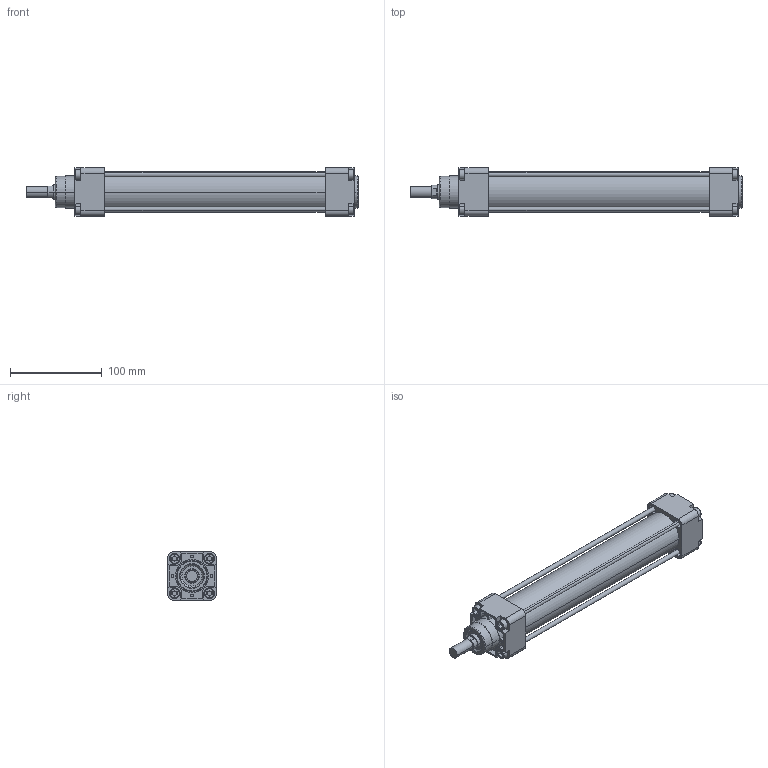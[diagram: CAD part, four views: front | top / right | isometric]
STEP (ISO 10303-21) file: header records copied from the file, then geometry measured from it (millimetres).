
FILE_DESCRIPTION(('CATIA V5 STEP Exchange'),'2;1');
FILE_NAME('D:\stp file for catalog\PNC\40\PNC 40-16-200.stp','2015-05-25T08:25:24+00:00',('none'),('none'),'Version 5-6 Release 2012','CATIA V5 STEP AP203','none');
FILE_SCHEMA(('CONFIG_CONTROL_DESIGN'));
Length unit declared in the file: millimetre
Products named in the file (1): PNC 40-16-200-00
Assembly tree (2 placements, depth 2):
  PNC 40-16-200-00
    #58
    #14829
Bounding box: 362.5 x 53 x 53 mm (x, y, z)
Volume: 357341 mm3; surface area: 149019.7 mm2
Topology: 2 solids, 2 shells, 562 faces, 1417 edges, 920 vertices
Faces by surface type: plane 352, cylinder 158, torus 26, cone 18, extrusion 8
Entity records: 15258 total; most frequent: CARTESIAN_POINT 2959, ORIENTED_EDGE 2834, DIRECTION 1897, EDGE_CURVE 1417, VERTEX_POINT 920, VECTOR 877, LINE 869, AXIS2_PLACEMENT_3D 756
